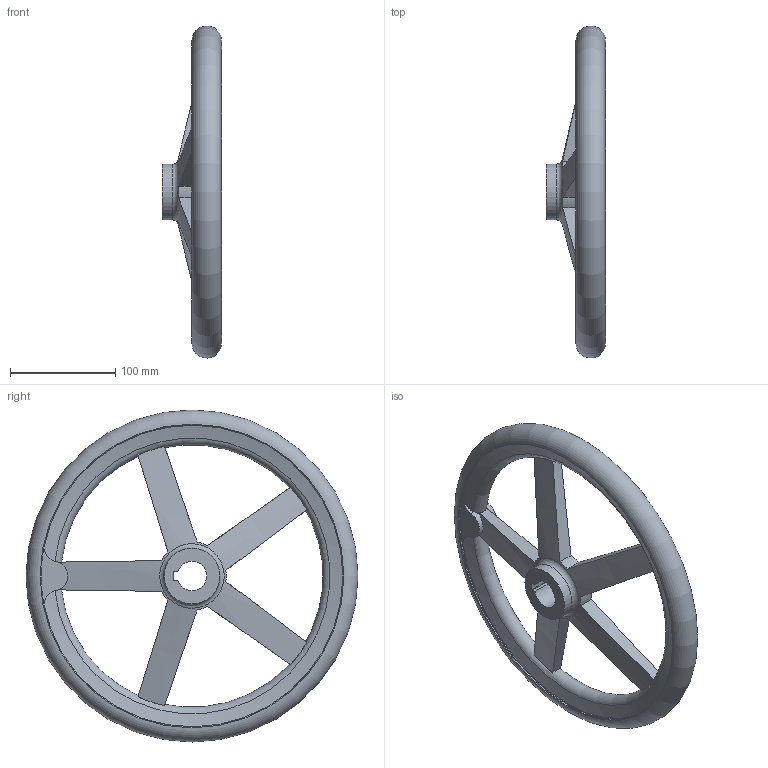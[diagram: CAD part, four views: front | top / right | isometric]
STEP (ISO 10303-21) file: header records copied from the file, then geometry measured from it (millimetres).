
FILE_DESCRIPTION( ( 'STEP AP203' ), '1' );
FILE_NAME( 'C:/Temp/Ganter_Step_05_03_2020/data/1_3/din_950/din_950_k/din_950_k_a/Handwheel DIN 950-GG-315-K28-A.stp', '2020-03-05T10:30:41', ( 'License CC BY-ND 4.0' ), ( 'CADENAS' ), ' ', 'PARTsolutions', ' ' );
FILE_SCHEMA( ( 'CONFIG_CONTROL_DESIGN' ) );
Length unit declared in the file: millimetre
Products named in the file (1): _Handwheel DIN 950-GG-315-K28-A
Bounding box: 56 x 314.99 x 314.99 mm (x, y, z)
Volume: 807961.6 mm3; surface area: 136397.4 mm2
Topology: 1 solids, 1 shells, 59 faces, 179 edges, 116 vertices
Faces by surface type: torus 20, cylinder 18, plane 17, cone 4
Full cylindrical faces by diameter (mm): 53 x2, 287 x2
Entity records: 2535 total; most frequent: CARTESIAN_POINT 1026, ORIENTED_EDGE 324, DIRECTION 274, EDGE_CURVE 162, AXIS2_PLACEMENT_3D 124, VERTEX_POINT 113, EDGE_LOOP 78, B_SPLINE_CURVE_WITH_KNOTS 72
